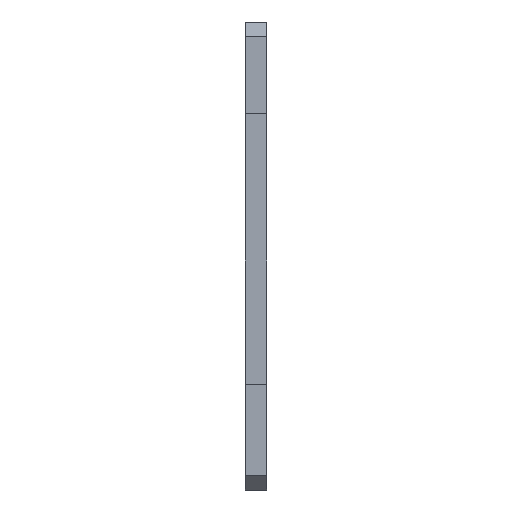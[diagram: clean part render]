
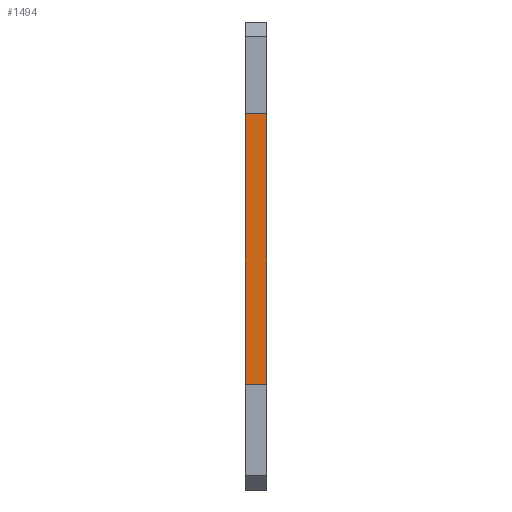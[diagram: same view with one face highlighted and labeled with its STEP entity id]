
A CAD part, front view. The second image highlights one B-rep face of the part: STEP entity #1494.
In plain terms, the highlighted planar face has unit normal (0, -1, 0).
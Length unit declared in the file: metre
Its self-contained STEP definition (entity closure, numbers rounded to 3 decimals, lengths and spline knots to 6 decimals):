
#160=ORIENTED_EDGE('',*,*,#552,.T.);
#161=ORIENTED_EDGE('',*,*,#588,.T.);
#162=ORIENTED_EDGE('',*,*,#476,.F.);
#163=ORIENTED_EDGE('',*,*,#589,.F.);
#476=EDGE_CURVE('',#692,#693,#836,.T.);
#552=EDGE_CURVE('',#767,#766,#912,.T.);
#588=EDGE_CURVE('',#766,#693,#948,.T.);
#589=EDGE_CURVE('',#767,#692,#949,.T.);
#692=VERTEX_POINT('',#2084);
#693=VERTEX_POINT('',#2086);
#766=VERTEX_POINT('',#2235);
#767=VERTEX_POINT('',#2237);
#836=LINE('',#2085,#1052);
#912=LINE('',#2236,#1128);
#948=LINE('',#2307,#1164);
#949=LINE('',#2308,#1165);
#1052=VECTOR('',#1689,1.);
#1128=VECTOR('',#1767,1.);
#1164=VECTOR('',#1807,1.);
#1165=VECTOR('',#1808,1.);
#1256=EDGE_LOOP('',(#160,#161,#162,#163));
#1346=FACE_BOUND('',#1256,.T.);
#1420=PLANE('',#1581);
#1494=ADVANCED_FACE('',(#1346),#1420,.F.);
#1581=AXIS2_PLACEMENT_3D('',#2306,#1805,#1806);
#1689=DIRECTION('',(0.,0.,-1.));
#1767=DIRECTION('',(0.,0.,-1.));
#1805=DIRECTION('',(0.,1.,0.));
#1806=DIRECTION('',(-1.,0.,0.));
#1807=DIRECTION('',(1.,0.,0.));
#1808=DIRECTION('',(1.,0.,0.));
#2084=CARTESIAN_POINT('',(0.13645,-0.239,0.0355));
#2085=CARTESIAN_POINT('',(0.13645,-0.239,0.474254));
#2086=CARTESIAN_POINT('',(0.13645,-0.239,-0.002999));
#2235=CARTESIAN_POINT('',(0.13345,-0.239,-0.002999));
#2236=CARTESIAN_POINT('',(0.13345,-0.239,0.474254));
#2237=CARTESIAN_POINT('',(0.13345,-0.239,0.0355));
#2306=CARTESIAN_POINT('',(0.084325,-0.239,0.474254));
#2307=CARTESIAN_POINT('',(-0.095875,-0.239,-0.002999));
#2308=CARTESIAN_POINT('',(-0.095875,-0.239,0.0355));
